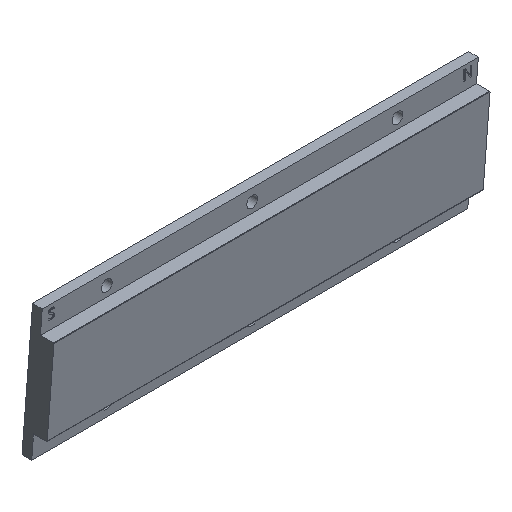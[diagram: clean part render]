
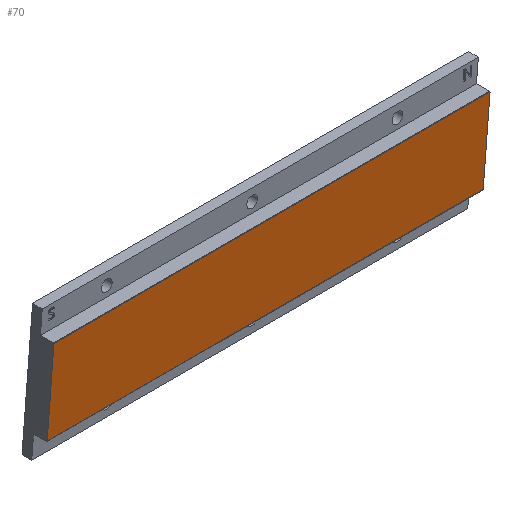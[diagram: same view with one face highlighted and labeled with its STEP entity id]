
A CAD part, isometric view. The second image highlights one B-rep face of the part: STEP entity #70.
In plain terms, the highlighted planar face has unit normal (0, -1, 0).
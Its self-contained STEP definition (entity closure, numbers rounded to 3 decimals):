
#70 = ADVANCED_FACE( '', ( #170 ), #171, .T. );
#170 = FACE_OUTER_BOUND( '', #306, .T. );
#171 = PLANE( '', #307 );
#306 = EDGE_LOOP( '', ( #502, #503, #504, #505 ) );
#307 = AXIS2_PLACEMENT_3D( '', #506, #507, #508 );
#502 = ORIENTED_EDGE( '', *, *, #855, .T. );
#503 = ORIENTED_EDGE( '', *, *, #856, .T. );
#504 = ORIENTED_EDGE( '', *, *, #857, .T. );
#505 = ORIENTED_EDGE( '', *, *, #858, .T. );
#506 = CARTESIAN_POINT( '', ( 0., -5.6, 0. ) );
#507 = DIRECTION( '', ( 0., -1., 0. ) );
#508 = DIRECTION( '', ( 0., 0., -1. ) );
#855 = EDGE_CURVE( '', #1013, #1014, #1015, .T. );
#856 = EDGE_CURVE( '', #1014, #1016, #1017, .T. );
#857 = EDGE_CURVE( '', #1016, #1018, #1019, .T. );
#858 = EDGE_CURVE( '', #1018, #1013, #1020, .T. );
#1013 = VERTEX_POINT( '', #1352 );
#1014 = VERTEX_POINT( '', #1353 );
#1015 = LINE( '', #1354, #1355 );
#1016 = VERTEX_POINT( '', #1356 );
#1017 = LINE( '', #1357, #1358 );
#1018 = VERTEX_POINT( '', #1359 );
#1019 = LINE( '', #1360, #1361 );
#1020 = LINE( '', #1362, #1363 );
#1352 = CARTESIAN_POINT( '', ( -195.973, -5.6, -36.278 ) );
#1353 = CARTESIAN_POINT( '', ( -198.777, -5.6, -69.678 ) );
#1354 = CARTESIAN_POINT( '', ( -195.956, -5.6, -36.078 ) );
#1355 = VECTOR( '', #1606, 1000. );
#1356 = CARTESIAN_POINT( '', ( -18.777, -5.6, -69.678 ) );
#1357 = CARTESIAN_POINT( '', ( 101.206, -5.6, -69.678 ) );
#1358 = VECTOR( '', #1607, 1000. );
#1359 = CARTESIAN_POINT( '', ( -15.973, -5.6, -36.278 ) );
#1360 = CARTESIAN_POINT( '', ( -18.794, -5.6, -69.878 ) );
#1361 = VECTOR( '', #1608, 1000. );
#1362 = CARTESIAN_POINT( '', ( -195.956, -5.6, -36.278 ) );
#1363 = VECTOR( '', #1609, 1000. );
#1606 = DIRECTION( '', ( -0.084, 0., -0.996 ) );
#1607 = DIRECTION( '', ( 1., 0., 0. ) );
#1608 = DIRECTION( '', ( 0.084, 0., 0.996 ) );
#1609 = DIRECTION( '', ( -1., 0., 0. ) );
